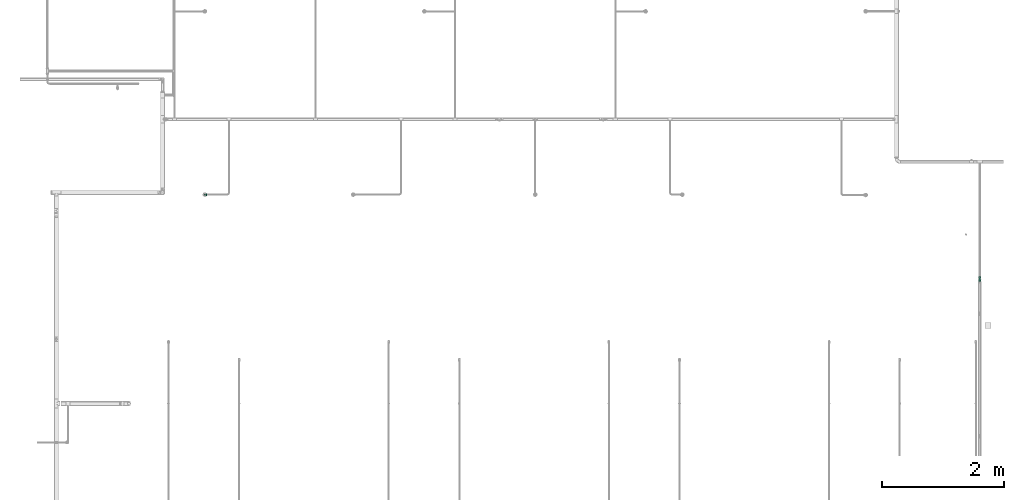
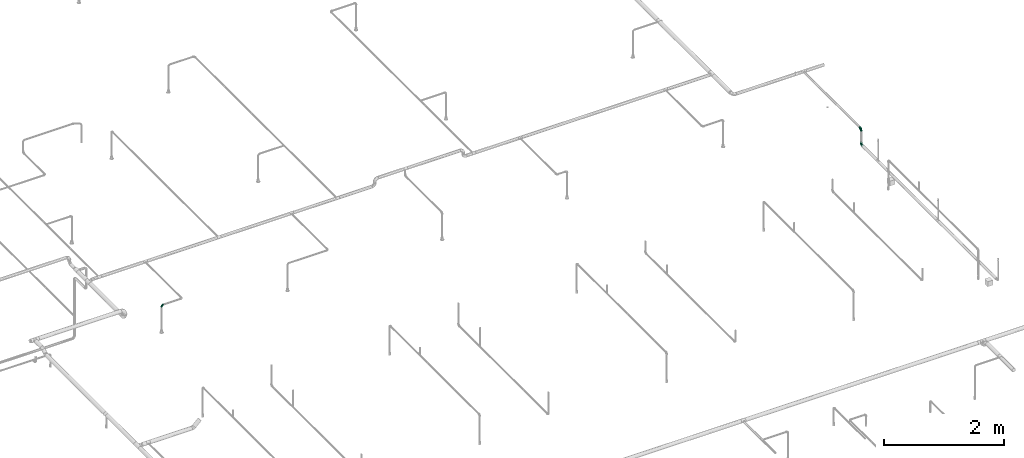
# One storey, part 59 of 95: 3 flow fittings.
"""IFC2X3 building model written with IfcOpenShell, lengths in millimetres."""

from ifc_helpers import new_model, entity, si_unit, converted_unit, derived_unit, direction, frame, origin_with_axes, place, context, subcontext, project, spatial, open_shell, surface_model, source, transform, mapped, type_object, element, save


model = new_model("IFC2X3")

# Units and contexts
model_context = context("Model", 3, precision=0.01, world=frame((0.0, 4.29681676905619e-09, 0.0)), true_north=direction((4.01073788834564e-13, 1.0)))
plan_context = context("Plan", 3, precision=0.01, world=frame((0.0, 4.29681676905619e-09, 0.0)), true_north=direction((4.01073788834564e-13, 1.0)))
body_context = subcontext(model_context, "Body", "Model", "MODEL_VIEW")
ifc_project = project(units=[converted_unit("PLANEANGLEUNIT", "DEGREE", entity("IfcPositiveLengthMeasure", 0.0174532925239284), si_unit("PLANEANGLEUNIT", "RADIAN"), dimensions=[0, 0, 0, 0, 0, 0, 0]), si_unit("AREAUNIT", "SQUARE_METRE"), si_unit("LENGTHUNIT", "METRE", prefix="MILLI"), si_unit("MASSUNIT", "GRAM", prefix="KILO"), si_unit("POWERUNIT", "WATT"), si_unit("PRESSUREUNIT", "PASCAL"), si_unit("FORCEUNIT", "NEWTON", prefix="KILO"), si_unit("ELECTRICVOLTAGEUNIT", "VOLT"), si_unit("ELECTRICCURRENTUNIT", "AMPERE"), si_unit("THERMODYNAMICTEMPERATUREUNIT", "DEGREE_CELSIUS"), si_unit("TIMEUNIT", "SECOND"), si_unit("VOLUMEUNIT", "CUBIC_METRE"), derived_unit("LINEARVELOCITYUNIT", [(si_unit("LENGTHUNIT", "METRE"), 1), (si_unit("TIMEUNIT", "SECOND"), -1)]), derived_unit("VOLUMETRICFLOWRATEUNIT", [(si_unit("VOLUMEUNIT", "CUBIC_METRE"), 1), (si_unit("TIMEUNIT", "SECOND"), -1)]), derived_unit("THERMALTRANSMITTANCEUNIT", [(si_unit("POWERUNIT", "WATT"), 1), (si_unit("THERMODYNAMICTEMPERATUREUNIT", "KELVIN"), -1), (si_unit("AREAUNIT", "SQUARE_METRE"), -1)]), derived_unit("SOUNDPRESSUREUNIT", [(si_unit("PRESSUREUNIT", "PASCAL"), 1)])], contexts=[model_context, plan_context])

# Site, building, storey
site_placement = place(None, frame((0.0, -4.29681676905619e-09, 0.0), z_axis=(0.0, 0.0, 1.0), x_axis=(1.0, 0.0, 0.0)))
site = spatial("IfcSite", under=ifc_project, at=site_placement, CompositionType="ELEMENT")
building_placement = place(site_placement, frame((0.0, 4.29681676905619e-09, 0.0), z_axis=(0.0, 0.0, 1.0), x_axis=(1.0, 0.0, 0.0)))
building = spatial("IfcBuilding", under=site, at=building_placement, Name="mc-building", CompositionType="ELEMENT")
storey_placement = place(building_placement, frame((0.0, 0.0, 210900.0), z_axis=(0.0, 0.0, 1.0), x_axis=(1.0, 0.0, 0.0)))
storey = spatial("IfcBuildingStorey", under=building, at=storey_placement, Name="Nivå F", CompositionType="ELEMENT", Elevation=210900.0)

# Flow fittings
pipe_fitting_type = type_object("IfcPipeFittingType", Name="magi_pipe_fe_elbow_short_001", PredefinedType="BEND")
shared_shape_1 = source(origin_with_axes(), body_context, "Body", "SurfaceModel", [
    surface_model("IfcShellBasedSurfaceModel", [(-33.8, 8.45, -14.63583), (-33.8, 4.37404, -16.32415), (-33.8, 11.9501, -11.9501), (-33.8, -11.9501, -11.9501), (-33.8, -14.63583, -8.45), (-33.8, -8.45, -14.63583), (-33.8, 0.0, -16.9), (-33.8, -4.37404, -16.32415), (-33.8, -4.37404, 16.32415), (-33.8, 0.0, 16.9), (-33.8, -8.45, 14.63583), (-33.8, 16.32415, -4.37404), (-33.8, 14.63583, -8.45), (-33.8, -16.32415, -4.37404), (-33.8, -16.9, 0.0), (-33.8, -16.32415, 4.37404), (-33.8, 11.9501, 11.9501), (-33.8, 14.63583, 8.45), (-33.8, 16.32415, 4.37404), (-33.8, 4.37404, 16.32415), (-33.8, 8.45, 14.63583), (-33.8, -14.63583, 8.45), (-33.8, -11.9501, 11.9501), (-33.8, 16.9, 0.0), (-11.9501, 33.8, -11.9501), (0.0, 33.8, -16.9), (-4.37404, 33.8, -16.32415), (-8.45, 33.8, -14.63583), (-14.63583, 33.8, -8.45), (-16.32415, 33.8, -4.37404), (14.63583, 33.8, -8.45), (8.45, 33.8, 14.63583), (16.32415, 33.8, -4.37404), (8.45, 33.8, -14.63583), (11.9501, 33.8, -11.9501), (4.37404, 33.8, -16.32415), (16.32415, 33.8, 4.37404), (16.9, 33.8, 0.0), (-11.9501, 33.8, 11.9501), (-16.32415, 33.8, 4.37404), (-14.63583, 33.8, 8.45), (-8.45, 33.8, 14.63583), (-4.37404, 33.8, 16.32415), (11.9501, 33.8, 11.9501), (14.63583, 33.8, 8.45), (0.0, 33.8, 16.9), (4.37404, 33.8, 16.32415), (-16.9, 33.8, 0.0), (-24.79389, -13.12945, 9.48721), (-22.19287, -9.75018, 12.59315), (-24.09897, -14.97035, 0.0), (-14.93934, -10.76256, 8.5297), (-22.46095, -14.75051, 5.27077), (14.75051, 22.46094, 5.27077), (11.9251, 13.23888, 4.33236), (13.04069, 14.39795, 0.0), (7.71387, 13.68847, 11.55891), (9.75018, 22.19287, 12.59315), (4.10169, 13.0571, 14.04018), (-24.84007, -6.39063, 15.2048), (-25.81779, -2.23879, 16.61097), (-23.66549, 2.59054, 16.87119), (-26.50418, 14.06512, 11.08152), (-24.21253, 17.66365, 7.72657), (-29.58514, 15.86957, 7.00283), (-6.17382, -7.5455, 0.0), (-13.23888, -11.9251, 4.33236), (-14.39795, -13.04069, 0.0), (-17.81434, 18.87373, 11.97104), (-6.30846, 29.15138, 15.82987), (-2.31622, 25.28002, 16.85849), (-29.23923, 10.23435, 13.77053), (-1.45439, -2.85688, 7.61475), (-0.28326, 0.34872, 10.09509), (-5.74484, -4.04709, 10.4122), (-4.41137, 11.31918, 16.59407), (-8.39727, 3.10034, 15.7812), (-1.72649, 9.1306, 15.53089), (-17.39909, 24.75344, 7.64977), (-26.19233, 20.0512, 0.0), (-28.14518, 17.29657, 4.25857), (-26.05147, 6.6281, 15.96447), (-5.87354, 16.61944, 16.86968), (-12.51807, 12.51807, 16.48937), (-10.06312, 7.38516, 16.81295), (-3.01882, 3.01882, 13.81718), (-13.0571, -4.10169, 14.04018), (-16.82553, -0.15166, 16.38038), (10.76256, 14.93934, 8.5297), (13.12945, 24.79389, 9.48721), (6.39063, 24.84007, 15.2048), (2.23879, 25.81779, 16.61097), (-13.68847, -7.71387, 11.55891), (14.97035, 24.09897, 0.0), (-7.30894, 22.89991, 16.09489), (-10.67958, 26.17414, 14.008), (-12.78295, 18.26924, 15.06066), (-13.88562, 22.45231, 12.93244), (-18.04944, 15.16501, 14.04434), (-23.11658, 20.08178, 4.02986), (-21.84989, 21.84989, 0.0), (-18.55817, 25.48277, 3.93065), (-13.95142, 26.94732, 11.03289), (-18.57098, 7.23906, 16.59756), (-16.58335, 4.14122, 16.89279), (-17.96666, 11.46709, 15.63151), (-9.84453, 17.54304, 16.18938), (0.15166, 16.82553, 16.38038), (-23.27207, 11.47201, 14.23154), (3.84842, 5.86994, 10.70473), (-8.0212, -7.54413, 7.93275), (1.00345, -2.19508, 4.57414), (5.13203, 3.01004, 5.90201), (5.24161, 1.7543, 2.53265), (8.70457, 7.04947, 3.99182), (-20.0512, 26.19233, 0.0), (8.4852, 8.76699, 7.09296), (-4.55488, -6.72064, 4.90681), (2.05031, -2.05031, 0.0), (7.5455, 6.17382, 0.0), (-26.75399, 2.1369, -16.845), (-14.61995, 24.73803, -11.27736), (-28.45274, -13.45335, -9.81895), (-26.00469, 6.63555, -15.96645), (-23.06726, 20.04573, -4.26202), (-13.80647, -4.26506, -14.17873), (-14.67501, -0.21081, -16.07388), (-6.7902, -0.2828, -13.8478), (-24.53586, 11.08096, -14.13417), (-26.72048, 14.00837, -11.05776), (10.0967, 24.44989, -12.75976), (5.83237, 21.40218, -15.03047), (6.66249, 28.54238, -15.38093), (-20.38182, 15.48705, -12.74596), (12.53268, 21.23441, -9.15363), (12.54494, 15.67504, -5.54878), (9.7522, 12.89279, -8.66343), (-15.65186, 19.64213, -13.01327), (-12.03528, 20.66498, -14.67665), (-15.61907, 15.61906, -14.83879), (-25.56551, -15.26206, 0.0), (-24.65452, -15.12934, -5.50955), (13.45335, 28.45274, -9.81895), (15.12934, 24.65452, -5.50955), (-7.35442, -8.31014, -5.65563), (-15.67504, -12.54494, -5.54878), (-24.44989, -10.0967, -12.75976), (0.16522, 0.41303, -9.71728), (-5.70658, -5.33066, -8.89288), (-5.13869, -2.37198, -11.53565), (-21.23441, -12.53268, -9.15363), (0.71146, 7.93863, -14.09382), (0.21081, 14.67501, -16.07388), (3.49291, 14.42772, -14.76381), (-24.89911, -2.13088, -16.591), (-28.54238, -6.66249, -15.38093), (-18.44386, -7.71663, -13.26957), (2.13088, 24.89911, -16.591), (-28.64342, 17.44413, -2.89318), (1.70017, -1.28722, -5.09504), (-16.57067, 26.81947, -7.36596), (-17.69055, 27.4263, -3.76405), (-12.89279, -9.7522, -8.66343), (-5.96611, 5.96611, -15.95814), (-20.53709, 20.09345, -8.28985), (-2.1369, 26.75399, -16.845), (-6.89872, 24.58781, -16.02578), (-10.60739, 26.53157, -13.98044), (-21.40218, -5.83237, -15.03047), (2.93192, 5.89627, -11.55917), (6.89393, 12.61842, -11.82233), (5.58056, 5.95325, -8.79455), (-3.99512, 18.61798, -16.89635), (8.31014, 7.35442, -5.65563), (-9.1383, 9.86148, -16.89041), (-9.99983, 16.02119, -16.39699), (-16.68576, 9.78031, -16.34199), (-27.01915, 16.61158, -7.12979), (15.26206, 25.56551, 0.0), (-18.61798, 3.99512, -16.89635), (-19.37495, 27.82495, 0.0), (-12.61842, -6.89393, -11.82233), (-18.84705, 19.14018, -10.96545)], [open_shell([[[0, 1, 2]], [[3, 4, 5]], [[6, 7, 5]], [[8, 9, 10]], [[1, 6, 2]], [[11, 12, 2]], [[4, 2, 6]], [[2, 13, 10]], [[5, 4, 6]], [[2, 4, 13]], [[14, 15, 13]], [[11, 2, 16]], [[11, 17, 18]], [[11, 16, 17]], [[19, 20, 16]], [[16, 2, 10]], [[19, 16, 10]], [[21, 22, 15]], [[22, 13, 15]], [[22, 10, 13]], [[10, 9, 19]], [[11, 18, 23]], [[24, 25, 26]], [[24, 26, 27]], [[24, 28, 29]], [[25, 24, 30]], [[31, 32, 24]], [[33, 30, 34]], [[33, 35, 25]], [[25, 30, 33]], [[32, 30, 24]], [[32, 36, 37]], [[38, 24, 29]], [[39, 40, 29]], [[40, 38, 29]], [[38, 41, 42]], [[38, 31, 24]], [[31, 38, 42]], [[36, 43, 44]], [[36, 32, 43]], [[31, 45, 46]], [[32, 31, 43]], [[42, 45, 31]], [[39, 29, 47]], [[22, 48, 49]], [[15, 14, 50]], [[51, 48, 52]], [[53, 54, 55]], [[48, 22, 21]], [[15, 52, 21]], [[56, 57, 58]], [[49, 10, 22]], [[49, 59, 10]], [[9, 60, 61]], [[62, 63, 64]], [[65, 66, 67]], [[57, 43, 31]], [[62, 68, 63]], [[42, 69, 70]], [[20, 71, 16]], [[8, 60, 9]], [[72, 73, 74]], [[75, 76, 77]], [[16, 62, 17]], [[40, 39, 78]], [[79, 23, 80]], [[64, 18, 17]], [[9, 61, 19]], [[19, 81, 20]], [[82, 83, 84]], [[74, 85, 86]], [[59, 86, 87]], [[88, 89, 57]], [[90, 31, 46]], [[44, 53, 36]], [[46, 45, 91]], [[54, 53, 88]], [[44, 89, 53]], [[92, 86, 49]], [[89, 44, 43]], [[10, 59, 8]], [[53, 55, 93]], [[93, 36, 53]], [[66, 52, 67]], [[94, 82, 70]], [[95, 96, 94]], [[97, 98, 96]], [[79, 99, 100]], [[41, 38, 95]], [[101, 100, 99]], [[68, 78, 63]], [[42, 41, 69]], [[23, 18, 80]], [[95, 94, 69]], [[78, 101, 99]], [[38, 102, 95]], [[70, 45, 42]], [[97, 95, 102]], [[15, 50, 52]], [[90, 57, 31]], [[57, 90, 58]], [[81, 19, 61]], [[103, 104, 84]], [[105, 81, 103]], [[38, 40, 102]], [[106, 96, 83]], [[94, 106, 82]], [[91, 70, 107]], [[71, 62, 16]], [[62, 108, 98]], [[86, 59, 49]], [[67, 52, 50]], [[60, 59, 87]], [[92, 49, 51]], [[86, 85, 76]], [[91, 90, 46]], [[37, 36, 93]], [[107, 77, 58]], [[107, 58, 90]], [[58, 85, 109]], [[110, 74, 92]], [[72, 74, 110]], [[66, 51, 52]], [[72, 111, 112]], [[113, 114, 112]], [[56, 88, 57]], [[52, 48, 21]], [[49, 48, 51]], [[57, 89, 43]], [[53, 89, 88]], [[103, 81, 61]], [[71, 81, 108]], [[18, 64, 80]], [[63, 78, 99]], [[47, 115, 101]], [[101, 115, 100]], [[40, 78, 102]], [[68, 102, 78]], [[97, 96, 95]], [[105, 98, 108]], [[103, 84, 83]], [[107, 70, 82]], [[76, 84, 87]], [[82, 84, 75]], [[70, 91, 45]], [[90, 91, 107]], [[59, 60, 8]], [[61, 60, 87]], [[73, 85, 74]], [[109, 112, 116]], [[103, 61, 104]], [[105, 103, 83]], [[96, 105, 83]], [[81, 105, 108]], [[96, 98, 105]], [[62, 98, 68]], [[61, 87, 104]], [[87, 84, 104]], [[86, 76, 87]], [[77, 76, 85]], [[58, 77, 85]], [[75, 77, 107]], [[82, 75, 107]], [[76, 75, 84]], [[81, 71, 20]], [[62, 71, 108]], [[95, 69, 41]], [[70, 69, 94]], [[62, 64, 17]], [[80, 63, 99]], [[63, 80, 64]], [[80, 99, 79]], [[66, 65, 117]], [[110, 66, 117]], [[112, 114, 116]], [[118, 117, 65]], [[110, 92, 51]], [[112, 111, 113]], [[119, 55, 54]], [[74, 86, 92]], [[58, 109, 56]], [[116, 56, 109]], [[66, 110, 51]], [[72, 110, 117]], [[111, 72, 117]], [[73, 112, 109]], [[117, 118, 111]], [[113, 111, 118]], [[118, 119, 113]], [[114, 119, 54]], [[119, 114, 113]], [[116, 54, 88]], [[54, 116, 114]], [[116, 88, 56]], [[112, 73, 72]], [[85, 73, 109]], [[78, 39, 101]], [[47, 101, 39]], [[102, 68, 97]], [[97, 68, 98]], [[82, 106, 83]], [[94, 96, 106]], [[1, 120, 6]], [[28, 24, 121]], [[3, 122, 4]], [[0, 123, 1]], [[100, 124, 79]], [[125, 126, 127]], [[128, 2, 129]], [[130, 131, 132]], [[128, 129, 133]], [[134, 135, 136]], [[137, 138, 139]], [[128, 0, 2]], [[67, 140, 141]], [[134, 142, 143]], [[141, 13, 4]], [[144, 65, 145]], [[146, 3, 5]], [[147, 148, 149]], [[145, 141, 150]], [[151, 152, 153]], [[154, 7, 6]], [[5, 155, 146]], [[150, 146, 156]], [[155, 5, 7]], [[143, 135, 134]], [[35, 157, 25]], [[23, 79, 158]], [[148, 159, 144]], [[160, 161, 29]], [[145, 162, 144]], [[163, 152, 151]], [[29, 28, 160]], [[121, 164, 160]], [[33, 34, 130]], [[25, 165, 26]], [[26, 165, 166]], [[142, 34, 30]], [[24, 27, 167]], [[124, 161, 164]], [[157, 35, 132]], [[155, 154, 168]], [[123, 0, 128]], [[169, 170, 171]], [[172, 157, 152]], [[26, 166, 27]], [[132, 35, 33]], [[142, 130, 34]], [[168, 154, 126]], [[136, 135, 173]], [[133, 137, 139]], [[2, 12, 129]], [[170, 131, 130]], [[30, 32, 143]], [[172, 174, 175]], [[176, 123, 128]], [[158, 177, 11]], [[135, 55, 119]], [[167, 27, 166]], [[175, 166, 172]], [[137, 167, 138]], [[122, 141, 4]], [[140, 14, 13]], [[32, 37, 178]], [[170, 130, 134]], [[152, 157, 131]], [[165, 157, 172]], [[153, 170, 151]], [[152, 163, 174]], [[168, 125, 156]], [[122, 146, 150]], [[120, 154, 6]], [[179, 174, 126]], [[179, 126, 154]], [[126, 163, 127]], [[162, 145, 150]], [[140, 13, 141]], [[32, 178, 143]], [[55, 143, 178]], [[177, 129, 12]], [[128, 133, 139]], [[176, 128, 139]], [[120, 123, 179]], [[121, 160, 28]], [[161, 100, 180]], [[166, 175, 138]], [[121, 24, 167]], [[161, 47, 29]], [[79, 124, 158]], [[124, 164, 177]], [[161, 124, 100]], [[136, 171, 170]], [[127, 163, 151]], [[147, 171, 159]], [[148, 144, 162]], [[127, 151, 169]], [[127, 181, 125]], [[129, 177, 164]], [[12, 11, 177]], [[159, 65, 144]], [[67, 141, 145]], [[143, 55, 135]], [[135, 119, 173]], [[123, 120, 1]], [[154, 120, 179]], [[157, 165, 25]], [[166, 165, 172]], [[172, 152, 174]], [[176, 139, 175]], [[126, 174, 163]], [[176, 174, 179]], [[174, 176, 175]], [[123, 176, 179]], [[150, 181, 162]], [[127, 149, 181]], [[181, 148, 162]], [[159, 148, 147]], [[171, 136, 173]], [[170, 134, 136]], [[159, 171, 173]], [[171, 147, 169]], [[169, 147, 149]], [[151, 170, 169]], [[164, 182, 129]], [[182, 121, 137]], [[181, 149, 148]], [[169, 149, 127]], [[182, 137, 133]], [[167, 137, 121]], [[166, 138, 167]], [[175, 139, 138]], [[129, 182, 133]], [[121, 182, 164]], [[161, 160, 164]], [[47, 161, 180]], [[177, 158, 124]], [[23, 158, 11]], [[130, 132, 33]], [[157, 132, 131]], [[143, 142, 30]], [[130, 142, 134]], [[154, 155, 7]], [[146, 155, 168]], [[146, 122, 3]], [[141, 122, 150]], [[152, 131, 153]], [[159, 119, 118]], [[67, 145, 65]], [[170, 153, 131]], [[119, 159, 173]], [[159, 118, 65]], [[156, 125, 181]], [[126, 125, 168]], [[150, 156, 181]], [[168, 156, 146]]])]),
])
flow_fitting_placement = place(storey_placement, frame((523293.60843, 449607.85, 4315.0), z_axis=(0.0, -1.0, 0.0), x_axis=(-1.0, 0.0, 0.0)))
element("IfcFlowFitting", 1, at=flow_fitting_placement, inside=storey, type_object=pipe_fitting_type, Name="magi_pipe_fe_elbow_short_001", context=body_context, shape_type="MappedRepresentation", body=[
    mapped(shared_shape_1, transform((0.0, 0.0, 0.0), scale=1.0)),
])
shared_shape_2 = source(origin_with_axes(), body_context, "Body", "SurfaceModel", [
    surface_model("IfcShellBasedSurfaceModel", [(-42.4, 10.6, -18.35974), (-42.4, 5.48696, -20.47763), (-42.4, 0.0, -21.2), (-42.4, 14.99066, -14.99066), (-42.4, 20.47763, -5.48696), (-42.4, 18.35974, -10.6), (-42.4, -14.99066, 14.99066), (-42.4, -21.2, 0.0), (-42.4, -10.6, -18.35974), (-42.4, -14.99066, -14.99066), (-42.4, -5.48696, -20.47763), (-42.4, -18.35974, -10.6), (-42.4, -20.47763, -5.48696), (-42.4, 10.6, 18.35974), (-42.4, 20.47763, 5.48696), (-42.4, 18.35974, 10.6), (-42.4, 14.99066, 14.99066), (-42.4, 5.48696, 20.47763), (-42.4, 0.0, 21.2), (-42.4, -20.47763, 5.48696), (-42.4, -18.35974, 10.6), (-42.4, -10.6, 18.35974), (-42.4, -5.48696, 20.47763), (-42.4, 21.2, 0.0), (0.0, 42.4, -21.2), (-5.48696, 42.4, -20.47763), (-10.6, 42.4, -18.35974), (-14.99066, 42.4, -14.99066), (-18.35974, 42.4, -10.6), (-20.47763, 42.4, -5.48696), (21.2, 42.4, 0.0), (5.48696, 42.4, -20.47763), (14.99066, 42.4, -14.99066), (10.6, 42.4, -18.35974), (18.35974, 42.4, -10.6), (20.47763, 42.4, -5.48696), (14.99066, 42.4, 14.99066), (-20.47763, 42.4, 5.48696), (-10.6, 42.4, 18.35974), (-14.99066, 42.4, 14.99066), (-18.35974, 42.4, 10.6), (-5.48696, 42.4, 20.47763), (0.0, 42.4, 21.2), (18.35974, 42.4, 10.6), (20.47763, 42.4, 5.48696), (5.48696, 42.4, 20.47763), (10.6, 42.4, 18.35974), (-21.2, 42.4, 0.0), (-31.10239, -16.47009, 11.90111), (-27.83957, -12.231, 15.79732), (-30.23067, -18.77937, 0.0), (-18.74048, -13.50096, 10.69998), (-28.17586, -18.50359, 6.61185), (18.50359, 28.17586, 6.61185), (14.95929, 16.60735, 5.43468), (16.35874, 18.06133, 0.0), (-20.72313, 33.83635, 9.21426), (-17.70981, 33.00599, 13.92769), (-31.16033, -8.01664, 19.07348), (-32.38682, -2.80842, 20.83743), (-29.68688, 3.24967, 21.16387), (-7.74467, -9.46536, 0.0), (-16.60735, -14.95929, 5.43468), (-18.06133, -16.35874, 0.0), (-16.37932, -5.14532, 17.61254), (-21.10659, -0.19025, 20.54817), (-1.82445, -3.58377, 9.55223), (-0.35533, 0.43745, 12.66367), (-7.20655, -5.07682, 13.06146), (-33.14056, 17.6728, 13.91288), (-7.36799, 20.84806, 21.16196), (-15.70315, 15.70315, 20.68489), (-12.62356, 9.26422, 21.0908), (-36.67879, 12.83836, 17.27427), (-7.91358, 36.5686, 19.85759), (-2.90555, 31.71221, 21.14793), (-33.84689, 20.71971, 9.21285), (-33.51649, 22.58113, 4.66115), (-26.3226, 26.3226, 7.92474), (-32.67995, 8.31454, 20.02643), (-5.53379, 14.19921, 20.81623), (-10.53385, 3.88918, 19.79653), (-2.16577, 11.45378, 19.48254), (-3.78693, 3.78693, 17.3328), (12.231, 27.83957, 15.79732), (13.50096, 18.74047, 10.69998), (16.47009, 31.10239, 11.90111), (-22.53806, 14.38475, 19.60876), (-23.29615, 9.08095, 20.82061), (2.80842, 32.38682, 20.83743), (8.01664, 31.16033, 19.07348), (5.14532, 16.37932, 17.61254), (18.77937, 30.23067, 0.0), (-20.80278, 5.19491, 21.19095), (-19.62579, 22.38752, 17.42006), (-29.19336, 14.39093, 17.85259), (-22.31569, 34.20044, 4.54807), (-26.56962, 27.80621, 3.73106), (9.67657, 17.17133, 14.49993), (-24.04026, 31.8, 0.0), (-9.16861, 28.72652, 20.19004), (-12.09761, 21.9456, 20.37969), (-15.36991, 27.40112, 17.818), (-16.88976, 20.52477, 19.2896), (-12.95169, 35.54896, 17.36222), (-17.17133, -9.67657, 14.49993), (-21.98655, 28.10245, 11.99898), (-22.34699, 23.67592, 15.01692), (-27.22822, 22.77969, 11.82161), (0.19025, 21.10658, 20.54817), (4.8276, 7.36347, 13.42842), (-10.06209, -9.46364, 9.95114), (1.25876, -2.7536, 5.73797), (6.43781, 3.77591, 7.40371), (6.57528, 2.20066, 3.17705), (10.91934, 8.84313, 5.00748), (10.64415, 10.99764, 8.89767), (-31.8, 24.04026, 0.0), (-5.71381, -8.43063, 6.15529), (2.57199, -2.57199, 0.0), (9.46536, 7.74467, 0.0), (-17.17133, -9.67657, -14.49993), (-27.83957, -12.231, -15.79732), (-16.37932, -5.14532, -17.61254), (-18.74048, -13.50096, -10.69998), (-33.00599, 17.70981, -13.92769), (-35.54896, 12.95169, -17.36222), (-34.20044, 22.31569, -4.54807), (-28.17586, -18.50359, -6.61185), (-26.3226, 26.3226, -7.92474), (-33.83635, 20.72313, -9.21426), (-16.60735, -14.95929, -5.43468), (-20.52477, 16.88976, -19.2896), (-21.9456, 12.0976, -20.37969), (-27.40112, 15.36991, -17.818), (-12.83836, 36.67879, -17.27427), (-17.6728, 33.14056, -13.91288), (8.01664, 31.16033, -19.07348), (5.14532, 16.37932, -17.61254), (0.19025, 21.10658, -20.54817), (-36.5686, 7.91358, -19.85759), (-31.10239, -16.47009, -11.90111), (-31.16033, -8.01664, -19.07348), (-14.38475, 22.53806, -19.60876), (-8.31454, 32.67995, -20.02643), (-9.08095, 23.29615, -20.82061), (-32.38682, -2.80842, -20.83743), (-20.84806, 7.36799, -21.16196), (-15.70315, 15.70314, -20.68489), (-9.26422, 12.62356, -21.0908), (-31.71221, 2.90555, -21.14793), (-22.58113, 33.51649, -4.66115), (-20.71971, 33.84689, -9.21285), (-28.72652, 9.16861, -20.19004), (-27.80621, 26.56962, -3.73106), (-5.19491, 20.80278, -21.19095), (-22.38752, 19.62579, -17.42006), (-14.39093, 29.19336, -17.85259), (2.80842, 32.38682, -20.83743), (-3.24967, 29.68688, -21.16387), (16.47009, 31.10239, -11.90111), (12.231, 27.83957, -15.79732), (6.57528, 2.20067, -3.17705), (10.91934, 8.84313, -5.00749), (-14.19921, 5.53379, -20.81623), (-3.88918, 10.53385, -19.79653), (-11.45378, 2.16577, -19.48254), (1.25876, -2.7536, -5.73797), (-5.71381, -8.43063, -6.15529), (-1.82445, -3.58377, -9.55223), (13.50096, 18.74048, -10.69998), (18.50359, 28.17586, -6.61185), (14.95929, 16.60735, -5.43468), (-28.10245, 21.98655, -11.99898), (9.67657, 17.17133, -14.49993), (10.64415, 10.99764, -8.89767), (4.8276, 7.36347, -13.42842), (-23.67592, 22.34699, -15.01692), (-22.77969, 27.22822, -11.82161), (-21.10658, -0.19025, -20.54817), (-3.78693, 3.78693, -17.3328), (-7.20655, -5.07682, -13.06146), (-10.06209, -9.46364, -9.95113), (-0.35533, 0.43745, -12.66367), (6.43781, 3.77591, -7.40371)], [open_shell([[[0, 1, 2]], [[3, 0, 2]], [[4, 5, 3]], [[2, 4, 3]], [[6, 2, 7]], [[8, 9, 10]], [[11, 10, 9]], [[12, 7, 11]], [[2, 10, 11]], [[11, 7, 2]], [[6, 4, 2]], [[13, 14, 4]], [[15, 14, 16]], [[4, 6, 13]], [[16, 14, 13]], [[17, 13, 18]], [[19, 20, 7]], [[7, 20, 6]], [[21, 22, 6]], [[18, 6, 22]], [[6, 18, 13]], [[23, 4, 14]], [[24, 25, 26]], [[24, 26, 27]], [[27, 28, 29]], [[27, 29, 24]], [[24, 29, 30]], [[31, 32, 33]], [[31, 24, 32]], [[34, 30, 35]], [[32, 24, 34]], [[24, 30, 34]], [[29, 36, 30]], [[29, 37, 38]], [[39, 37, 40]], [[36, 29, 38]], [[38, 37, 39]], [[41, 42, 38]], [[30, 43, 44]], [[36, 43, 30]], [[36, 45, 46]], [[45, 36, 42]], [[38, 42, 36]], [[37, 29, 47]], [[6, 48, 49]], [[19, 7, 50]], [[51, 48, 52]], [[53, 54, 55]], [[48, 6, 20]], [[19, 52, 20]], [[40, 56, 57]], [[49, 21, 6]], [[49, 58, 21]], [[18, 59, 60]], [[61, 62, 63]], [[58, 64, 65]], [[66, 67, 68]], [[15, 16, 69]], [[70, 71, 72]], [[13, 73, 16]], [[22, 59, 18]], [[41, 74, 75]], [[18, 60, 17]], [[15, 69, 76]], [[16, 73, 69]], [[23, 14, 77]], [[14, 15, 76]], [[77, 76, 78]], [[17, 79, 13]], [[80, 81, 82]], [[68, 83, 64]], [[84, 36, 46]], [[85, 86, 84]], [[87, 79, 88]], [[21, 58, 22]], [[42, 89, 45]], [[53, 44, 43]], [[42, 41, 75]], [[84, 90, 91]], [[43, 86, 53]], [[92, 44, 53]], [[86, 43, 36]], [[90, 46, 45]], [[53, 55, 92]], [[88, 93, 72]], [[54, 53, 85]], [[87, 94, 95]], [[78, 96, 97]], [[98, 84, 91]], [[99, 96, 47]], [[79, 17, 60]], [[96, 78, 56]], [[62, 52, 63]], [[57, 39, 40]], [[100, 70, 75]], [[101, 102, 103]], [[19, 50, 52]], [[104, 38, 39]], [[74, 41, 38]], [[57, 102, 104]], [[105, 64, 49]], [[90, 84, 46]], [[40, 37, 56]], [[56, 106, 57]], [[102, 57, 107]], [[95, 107, 69]], [[76, 108, 78]], [[100, 101, 70]], [[89, 75, 109]], [[64, 58, 49]], [[63, 52, 50]], [[59, 58, 65]], [[105, 49, 51]], [[64, 83, 81]], [[89, 90, 45]], [[30, 44, 92]], [[109, 82, 91]], [[109, 91, 90]], [[91, 83, 110]], [[111, 68, 105]], [[66, 68, 111]], [[62, 51, 52]], [[66, 112, 113]], [[114, 115, 113]], [[98, 85, 84]], [[52, 48, 20]], [[49, 48, 51]], [[84, 86, 36]], [[53, 86, 85]], [[88, 79, 60]], [[73, 79, 95]], [[96, 56, 37]], [[78, 108, 106]], [[87, 103, 94]], [[100, 74, 104]], [[108, 69, 107]], [[78, 97, 77]], [[88, 72, 71]], [[109, 75, 70]], [[81, 72, 65]], [[70, 72, 80]], [[75, 89, 42]], [[90, 89, 109]], [[58, 59, 22]], [[60, 59, 65]], [[67, 83, 68]], [[110, 113, 116]], [[88, 60, 93]], [[87, 88, 71]], [[103, 87, 71]], [[79, 87, 95]], [[101, 103, 71]], [[94, 103, 102]], [[47, 96, 37]], [[96, 99, 97]], [[99, 117, 97]], [[97, 117, 77]], [[23, 77, 117]], [[14, 76, 77]], [[60, 65, 93]], [[65, 72, 93]], [[70, 101, 71]], [[102, 101, 100]], [[69, 108, 76]], [[106, 108, 107]], [[57, 106, 107]], [[78, 106, 56]], [[57, 104, 39]], [[100, 104, 102]], [[102, 107, 94]], [[95, 94, 107]], [[64, 81, 65]], [[82, 81, 83]], [[91, 82, 83]], [[80, 82, 109]], [[70, 80, 109]], [[81, 80, 72]], [[79, 73, 13]], [[69, 73, 95]], [[104, 74, 38]], [[75, 74, 100]], [[62, 61, 118]], [[111, 62, 118]], [[113, 115, 116]], [[119, 118, 61]], [[111, 105, 51]], [[113, 112, 114]], [[120, 55, 54]], [[68, 64, 105]], [[91, 110, 98]], [[116, 98, 110]], [[62, 111, 51]], [[66, 111, 118]], [[112, 66, 118]], [[67, 113, 110]], [[118, 119, 112]], [[114, 112, 119]], [[119, 120, 114]], [[115, 120, 54]], [[120, 115, 114]], [[116, 54, 85]], [[54, 116, 115]], [[116, 85, 98]], [[113, 67, 66]], [[83, 67, 110]], [[121, 122, 123]], [[122, 121, 124]], [[5, 125, 3]], [[3, 126, 0]], [[117, 127, 23]], [[50, 12, 128]], [[127, 129, 130]], [[128, 131, 63]], [[132, 133, 134]], [[27, 135, 136]], [[137, 138, 139]], [[0, 140, 1]], [[128, 11, 141]], [[142, 8, 10]], [[128, 63, 50]], [[5, 4, 130]], [[11, 9, 141]], [[143, 144, 145]], [[146, 10, 2]], [[147, 148, 149]], [[11, 128, 12]], [[124, 141, 122]], [[150, 2, 1]], [[151, 152, 129]], [[125, 134, 126]], [[153, 147, 150]], [[127, 154, 129]], [[145, 155, 149]], [[47, 29, 151]], [[143, 156, 157]], [[152, 29, 28]], [[24, 158, 159]], [[122, 9, 8]], [[27, 26, 135]], [[144, 26, 25]], [[32, 160, 161]], [[24, 31, 158]], [[120, 162, 163]], [[130, 125, 5]], [[27, 136, 28]], [[1, 140, 150]], [[33, 161, 137]], [[142, 122, 8]], [[24, 159, 25]], [[164, 165, 166]], [[167, 168, 169]], [[34, 160, 32]], [[161, 33, 32]], [[170, 160, 171]], [[131, 128, 124]], [[30, 92, 35]], [[35, 92, 171]], [[172, 171, 55]], [[35, 171, 34]], [[144, 25, 159]], [[130, 173, 125]], [[174, 175, 176]], [[136, 152, 28]], [[33, 137, 31]], [[122, 142, 123]], [[134, 125, 177]], [[157, 177, 136]], [[152, 178, 129]], [[153, 133, 147]], [[146, 150, 179]], [[146, 142, 10]], [[7, 12, 50]], [[179, 166, 123]], [[179, 123, 142]], [[123, 180, 181]], [[138, 137, 161]], [[55, 171, 92]], [[158, 137, 139]], [[174, 161, 170]], [[138, 180, 165]], [[180, 138, 176]], [[124, 121, 182]], [[176, 183, 180]], [[61, 131, 168]], [[169, 168, 182]], [[172, 170, 171]], [[122, 141, 9]], [[128, 141, 124]], [[171, 160, 34]], [[161, 160, 170]], [[145, 144, 159]], [[135, 144, 157]], [[127, 130, 4]], [[129, 178, 173]], [[143, 132, 156]], [[153, 140, 126]], [[178, 136, 177]], [[129, 154, 151]], [[145, 149, 148]], [[179, 150, 147]], [[165, 149, 139]], [[147, 149, 164]], [[150, 146, 2]], [[142, 146, 179]], [[137, 158, 31]], [[159, 158, 139]], [[174, 138, 161]], [[184, 169, 183]], [[145, 159, 155]], [[143, 145, 148]], [[132, 143, 148]], [[144, 143, 157]], [[133, 132, 148]], [[156, 132, 134]], [[23, 127, 4]], [[127, 117, 154]], [[117, 99, 154]], [[154, 99, 151]], [[47, 151, 99]], [[29, 152, 151]], [[159, 139, 155]], [[139, 149, 155]], [[147, 133, 148]], [[134, 133, 153]], [[136, 178, 152]], [[173, 178, 177]], [[125, 173, 177]], [[129, 173, 130]], [[125, 126, 3]], [[153, 126, 134]], [[134, 177, 156]], [[157, 156, 177]], [[138, 165, 139]], [[166, 165, 180]], [[123, 166, 180]], [[164, 166, 179]], [[147, 164, 179]], [[165, 164, 149]], [[144, 135, 26]], [[136, 135, 157]], [[126, 140, 0]], [[150, 140, 153]], [[182, 131, 124]], [[168, 119, 61]], [[119, 167, 162]], [[63, 131, 61]], [[172, 163, 175]], [[172, 55, 120]], [[123, 181, 121]], [[182, 121, 181]], [[175, 174, 170]], [[176, 138, 174]], [[169, 182, 181]], [[131, 182, 168]], [[183, 169, 181]], [[167, 169, 184]], [[162, 167, 184]], [[119, 168, 167]], [[163, 162, 184]], [[120, 119, 162]], [[175, 163, 184]], [[120, 163, 172]], [[176, 175, 184]], [[172, 175, 170]], [[180, 183, 181]], [[184, 183, 176]]])]),
])
for number, where, z_axis, x_axis, name in (
    (2, (535962.24677, 448226.17841, 3990.42676999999), (1.0, 0.0, 0.0), (0.0, 1.0, 0.0), "magi_pipe_fe_elbow_short_001"),
    (3, (535962.24677, 448226.17841, 4310.0), (-1.0, 0.0, 0.0), (0.0, 0.0, 1.0), "magi_pipe_fe_elbow_short_001"),
):
    element("IfcFlowFitting", number, at=place(storey_placement, frame(where, z_axis=z_axis, x_axis=x_axis)), inside=storey, type_object=pipe_fitting_type, Name=name, context=body_context, shape_type="MappedRepresentation", body=[
        mapped(shared_shape_2, transform((0.0, 0.0, 0.0), scale=1.0)),
    ])

save(model, "model.ifc")
